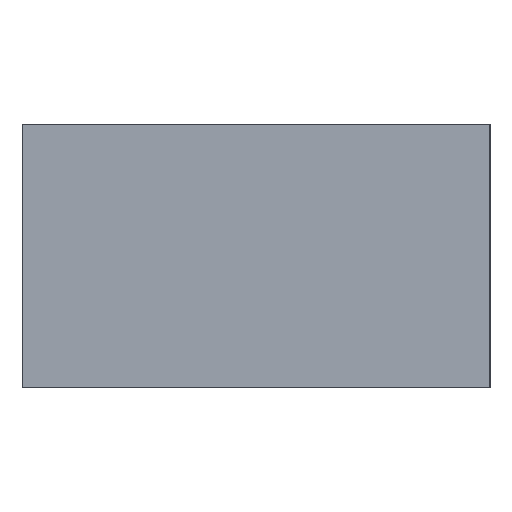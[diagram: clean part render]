
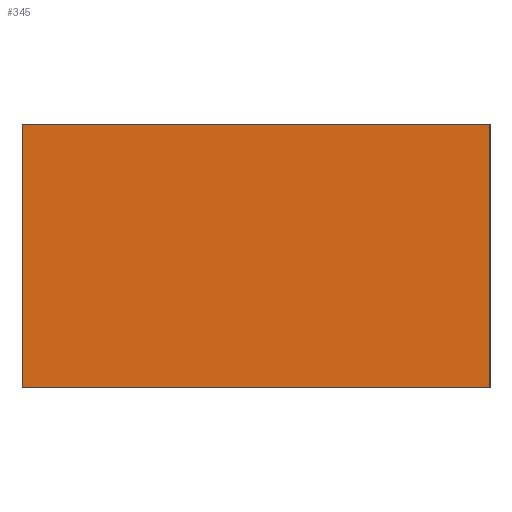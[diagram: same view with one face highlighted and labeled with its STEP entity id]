
A CAD part, left-side view. The second image highlights one B-rep face of the part: STEP entity #345.
In plain terms, the highlighted planar face has unit normal (-1, 0, 0).
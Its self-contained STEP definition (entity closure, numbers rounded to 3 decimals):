
#310 = CARTESIAN_POINT('',(-1.6,-0.8,0.));
#311 = VERTEX_POINT('',#310);
#312 = CARTESIAN_POINT('',(-1.6,-0.8,0.9));
#313 = VERTEX_POINT('',#312);
#314 = CARTESIAN_POINT('',(-1.6,0.8,0.9));
#315 = VERTEX_POINT('',#314);
#316 = CARTESIAN_POINT('',(-1.6,0.8,0.));
#317 = VERTEX_POINT('',#316);
#318 = DIRECTION('',(0.,0.,1.));
#319 = VECTOR('',#318,1.);
#320 = LINE('',#310,#319);
#321 = EDGE_CURVE('',#311,#313,#320,.T.);
#322 = ORIENTED_EDGE('',*,*,#321,.T.);
#323 = DIRECTION('',(0.,1.,0.));
#324 = VECTOR('',#323,1.);
#325 = LINE('',#312,#324);
#326 = EDGE_CURVE('',#313,#315,#325,.T.);
#327 = ORIENTED_EDGE('',*,*,#326,.T.);
#328 = DIRECTION('',(0.,0.,1.));
#329 = VECTOR('',#328,1.);
#330 = LINE('',#316,#329);
#331 = EDGE_CURVE('',#317,#315,#330,.T.);
#332 = ORIENTED_EDGE('',*,*,#331,.F.);
#333 = DIRECTION('',(0.,1.,0.));
#334 = VECTOR('',#333,1.);
#335 = LINE('',#310,#334);
#336 = EDGE_CURVE('',#311,#317,#335,.T.);
#337 = ORIENTED_EDGE('',*,*,#336,.F.);
#338 = CARTESIAN_POINT('',(-1.6,-0.8,0.));
#339 = DIRECTION('',(-1.,0.,0.));
#340 = DIRECTION('',(0.,0.,1.));
#341 = AXIS2_PLACEMENT_3D('',#338,#339,#340);
#342 = PLANE('',#341);
#343 = EDGE_LOOP('',(#322,#327,#332,#337));
#344 = FACE_OUTER_BOUND('',#343,.T.);
#345 = ADVANCED_FACE('',(#344),#342,.T.);
